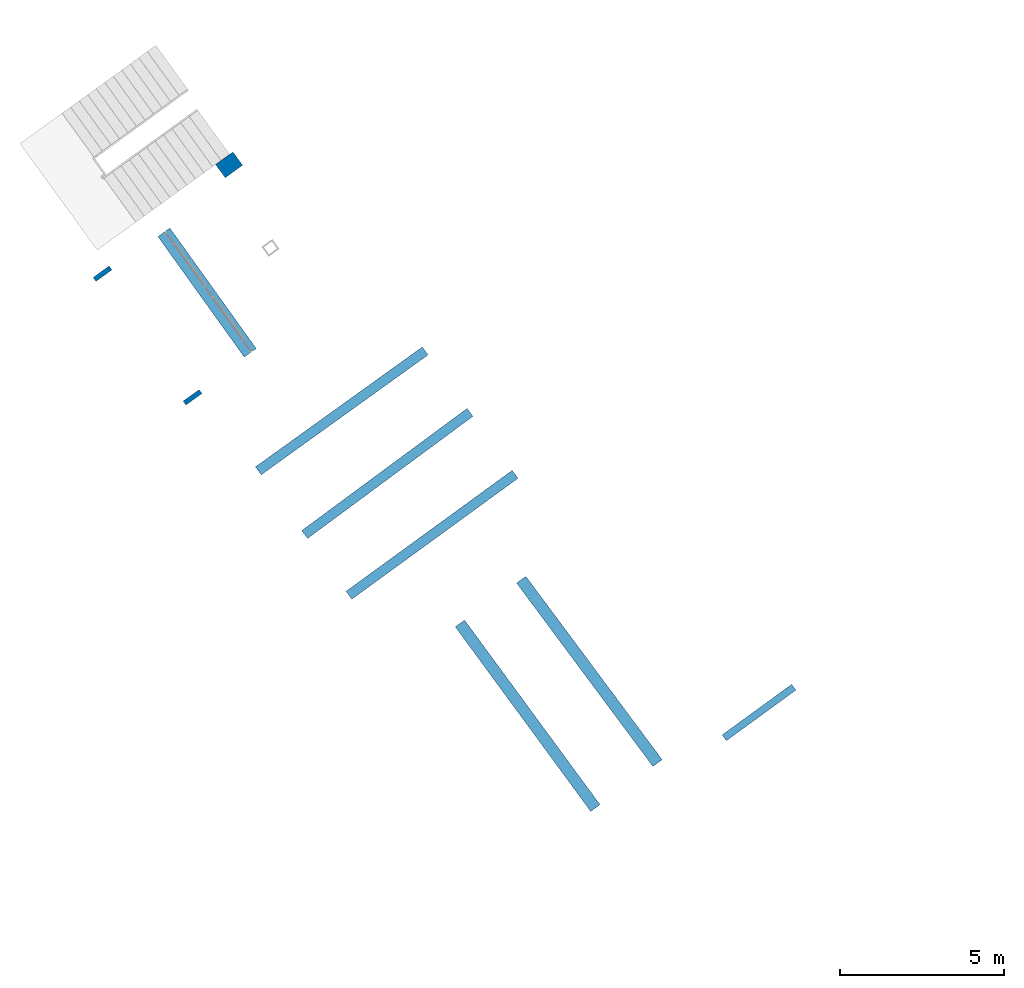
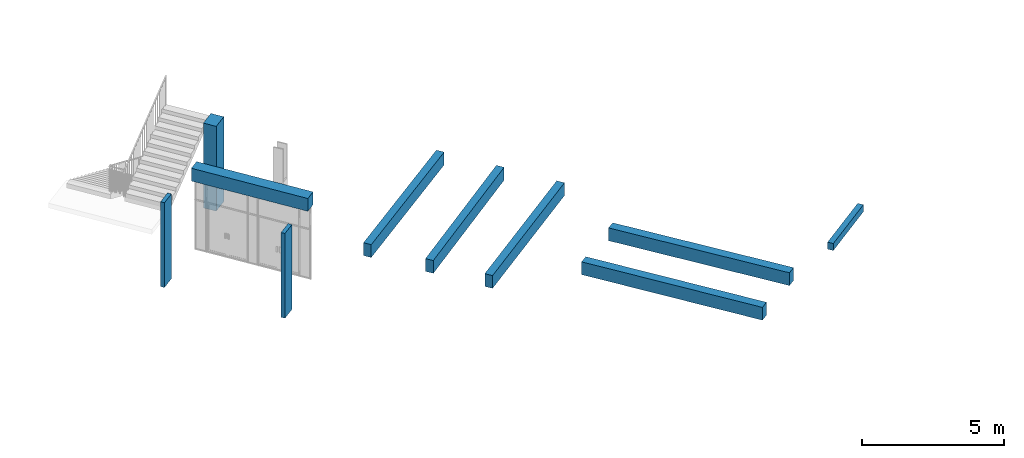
# One storey, part 13 of 24: 10 walls.
"""IFC2X3 building model written with IfcOpenShell, lengths in millimetres."""

import ifcopenshell
import ifcopenshell.guid

model = None  # the IFC model being written
_history = None  # IfcOwnerHistory: only IFC2X3 demands one
_inside = {}  # id of a spatial element -> (the spatial element, [elements in it])
_under = {}  # id of a project, library or spatial element -> (it, [spatial elements below it])
_declared = {}  # id of a project -> (the project, [libraries it declares])
_typed = {}  # id of a type object -> (the type object, [elements of that type])
_made_of = {}  # id of a material, layer set ... -> (it, [elements and type objects made of it])


def new_model(schema):
    """Start an empty IFC model of exactly this schema.

    Asked for "IFC4X3", IfcOpenShell would pick the latest addendum, in which some entities
    have other attributes; the version numbers below select the first issue.
    IFC2X3 requires an IfcOwnerHistory on every rooted entity: one is made here for all.
    """
    global model, _history
    if schema == "IFC4X3":
        model = ifcopenshell.file(schema_version=(4, 3, 0, 0))
    else:
        model = ifcopenshell.file(schema=schema)
    _inside.clear()
    _under.clear()
    _declared.clear()
    _typed.clear()
    _made_of.clear()
    _history = None
    if model.schema == "IFC2X3":
        org = make("IfcOrganization", Name="unknown")
        user = make(
            "IfcPersonAndOrganization",
            ThePerson=make("IfcPerson", FamilyName="unknown"),
            TheOrganization=org,
        )
        app = make(
            "IfcApplication",
            ApplicationDeveloper=org,
            Version="unknown",
            ApplicationFullName="unknown",
            ApplicationIdentifier="unknown",
        )
        _history = make(
            "IfcOwnerHistory",
            OwningUser=user,
            OwningApplication=app,
            ChangeAction="ADDED",
            CreationDate=0,
        )
    return model


def make(cls, **values):
    """One entity of the class cls with the attributes given. An attribute that is None is left unset."""
    return model.create_entity(
        cls, **{name: value for name, value in values.items() if value is not None}
    )


def entity(cls, *values):
    """Any entity or typed value of the class cls, its attributes in the order of the schema. None: left unset."""
    e = model.create_entity(cls)
    for i, value in enumerate(values):
        if value is not None:
            e[i] = value
    return e


def rooted(cls, **values):
    """An entity with a GlobalId (a new one), such as an element, a storey or a relation."""
    return make(cls, GlobalId=ifcopenshell.guid.new(), OwnerHistory=_history, **values)


def si_unit(unit_type, name, prefix=None):
    """IfcSIUnit, for example si_unit("LENGTHUNIT", "METRE", prefix="MILLI")."""
    return make("IfcSIUnit", UnitType=unit_type, Prefix=prefix, Name=name)


def converted_unit(unit_type, name, factor, base, dimensions=None, offset=None):
    """IfcConversionBasedUnit, such as the inch: factor (a typed value) times the base unit."""
    return make(
        "IfcConversionBasedUnit"
        if offset is None
        else "IfcConversionBasedUnitWithOffset",
        ConversionOffset=offset,
        Dimensions=None
        if dimensions is None
        else entity("IfcDimensionalExponents", *dimensions),
        UnitType=unit_type,
        Name=name,
        ConversionFactor=make(
            "IfcMeasureWithUnit", ValueComponent=factor, UnitComponent=base
        ),
    )


def derived_unit(unit_type, elements):
    """IfcDerivedUnit: a product of units, each with its exponent."""
    return make(
        "IfcDerivedUnit",
        Elements=[
            make("IfcDerivedUnitElement", Unit=unit, Exponent=power)
            for unit, power in elements
        ],
        UnitType=unit_type,
    )


def assignment(units):
    """IfcUnitAssignment: the units of a project."""
    return None if units is None else make("IfcUnitAssignment", Units=units)


def point(xyz):
    """IfcCartesianPoint."""
    return None if xyz is None else make("IfcCartesianPoint", Coordinates=xyz)


def direction(xyz):
    """IfcDirection."""
    return None if xyz is None else make("IfcDirection", DirectionRatios=xyz)


def frame(location, z_axis=None, x_axis=None):
    """IfcAxis2Placement3D, a coordinate frame: its origin and axes. An axis left out is left unset."""
    return make(
        "IfcAxis2Placement3D",
        Location=point(location),
        Axis=direction(z_axis),
        RefDirection=direction(x_axis),
    )


def frame_2d(location, x_axis=None):
    """IfcAxis2Placement2D, a coordinate frame in the plane: its origin and x axis."""
    return make(
        "IfcAxis2Placement2D", Location=point(location), RefDirection=direction(x_axis)
    )


def origin():
    """The frame at (0, 0, 0) with its axes left unset."""
    return frame((0.0, 0.0, 0.0))


def place(relative_to, where):
    """IfcLocalPlacement: puts the frame where relative to a parent placement (None: the world)."""
    return make(
        "IfcLocalPlacement", PlacementRelTo=relative_to, RelativePlacement=where
    )


def context(
    kind, dimensions, precision=None, world=None, true_north=None, identifier=None
):
    """IfcGeometricRepresentationContext, for example the 3D "Model" context."""
    return make(
        "IfcGeometricRepresentationContext",
        ContextIdentifier=identifier,
        ContextType=kind,
        CoordinateSpaceDimension=dimensions,
        Precision=precision,
        WorldCoordinateSystem=world,
        TrueNorth=true_north,
    )


def subcontext(parent, identifier, kind, view, scale=None):
    """IfcGeometricRepresentationSubContext, for example "Body" below "Model"."""
    return make(
        "IfcGeometricRepresentationSubContext",
        ContextIdentifier=identifier,
        ContextType=kind,
        ParentContext=parent,
        TargetScale=scale,
        TargetView=view,
    )


def project(units=None, contexts=None):
    """IfcProject with its units and contexts."""
    return rooted(
        "IfcProject",
        Name="project",
        RepresentationContexts=contexts,
        UnitsInContext=assignment(units),
    )


def spatial(cls, under=None, at=None, **own):
    """A site, building, storey or space (cls), placed at a placement, below another one or the project."""
    s = rooted(cls, ObjectPlacement=at, **own)
    if under is not None:
        _under.setdefault(under.id(), (under, []))[1].append(s)
    return s


def polyline(points):
    """IfcPolyline through the points."""
    return make("IfcPolyline", Points=[point(p) for p in points])


def profile(cls, at=None, kind="AREA", **sizes):
    """A parametric profile (cls). Its sizes go by their IFC names, for example OverallWidth=200.0."""
    return make(cls, ProfileType=kind, Position=at, **sizes)


def rectangle(**sizes):
    """IfcRectangleProfileDef."""
    return profile("IfcRectangleProfileDef", **sizes)


def outline(outer, holes=None, kind="AREA"):
    """IfcArbitraryClosedProfileDef: a profile drawn as a closed curve; with holes, ...WithVoids."""
    if holes is None:
        return make("IfcArbitraryClosedProfileDef", ProfileType=kind, OuterCurve=outer)
    return make(
        "IfcArbitraryProfileDefWithVoids",
        ProfileType=kind,
        OuterCurve=outer,
        InnerCurves=holes,
    )


def extrude(swept, where, along, depth):
    """IfcExtrudedAreaSolid: the profile swept, set in the frame where, extruded along a direction by depth."""
    return make(
        "IfcExtrudedAreaSolid",
        SweptArea=swept,
        Position=where,
        ExtrudedDirection=direction(along),
        Depth=depth,
    )


def shape(context_of_items, identifier, shape_type, items):
    """IfcShapeRepresentation: the items that make up one representation, for example the "Body"."""
    return make(
        "IfcShapeRepresentation",
        ContextOfItems=context_of_items,
        RepresentationIdentifier=identifier,
        RepresentationType=shape_type,
        Items=items,
    )


def material(Name=None, Category=None):
    """IfcMaterial."""
    return make("IfcMaterial", Name=Name, Category=Category)


def layer(
    of_material, thickness, ventilated=None, Name=None, Category=None, Priority=None
):
    """IfcMaterialLayer: one layer of a wall or slab, of a material (None: an air gap)."""
    return make(
        "IfcMaterialLayer",
        Material=of_material,
        LayerThickness=thickness,
        IsVentilated=ventilated,
        Name=Name,
        Category=Category,
        Priority=Priority,
    )


def layer_set(layers, Name=None):
    """IfcMaterialLayerSet."""
    return make("IfcMaterialLayerSet", MaterialLayers=layers, LayerSetName=Name)


def layer_usage(for_layer_set, set_direction, sense, offset, extent=None):
    """IfcMaterialLayerSetUsage: how a layer set lies in its element."""
    return make(
        "IfcMaterialLayerSetUsage",
        ForLayerSet=for_layer_set,
        LayerSetDirection=set_direction,
        DirectionSense=sense,
        OffsetFromReferenceLine=offset,
        ReferenceExtent=extent,
    )


def made_of(thing, what):
    """Note that an element or type object is made of a material, layer set ...; save() writes the relation."""
    if what is not None:
        _made_of.setdefault(what.id(), (what, []))[1].append(thing)
    return thing


def type_object(cls, material=None, **own):
    """A type object (cls), such as IfcWallType, which elements share."""
    return made_of(rooted(cls, **own), material)


def element(
    cls,
    number,
    at=None,
    inside=None,
    cuts=None,
    type_object=None,
    material=None,
    context=None,
    identifier="Body",
    shape_type=None,
    held_by="IfcProductDefinitionShape",
    body=None,
    shapes=None,
    **own,
):
    """One element of the class cls, such as IfcWall. Its Tag is "e" and its number.

    at: its placement. inside: the storey or other place that contains it. cuts: it is an
    opening in that element (IfcRelVoidsElement). A single representation is given by context,
    identifier, shape_type and body (its items); several are given by shapes. held_by: the class
    of the entity that holds the representations. save() writes the other relations.
    """
    e = rooted(cls, Tag="e%d" % number, ObjectPlacement=at, **own)
    if body is not None:
        shapes = [shape(context, identifier, shape_type, body)]
    if shapes is not None:
        e.Representation = make(held_by, Representations=shapes)
    if inside is not None:
        _inside.setdefault(inside.id(), (inside, []))[1].append(e)
    if cuts is not None:
        rooted(
            "IfcRelVoidsElement", RelatingBuildingElement=cuts, RelatedOpeningElement=e
        )
    if type_object is not None:
        _typed.setdefault(type_object.id(), (type_object, []))[1].append(e)
    return made_of(e, material)


def aggregate(whole, parts):
    """IfcRelAggregates: a whole, such as a stair, and the parts it consists of."""
    return rooted("IfcRelAggregates", RelatingObject=whole, RelatedObjects=parts)


def save(model, path):
    """Write the relations noted so far, then the file.

    IfcRelAggregates (storeys below a building ...), IfcRelContainedInSpatialStructure (elements
    in a storey), IfcRelDefinesByType, IfcRelAssociatesMaterial and IfcRelDeclares: one each for
    every whole, place, type object, material and project.
    """
    for whole, parts in _under.values():
        aggregate(whole, parts)
    for where, things in _inside.values():
        rooted(
            "IfcRelContainedInSpatialStructure",
            RelatedElements=things,
            RelatingStructure=where,
        )
    for kind, things in _typed.values():
        rooted("IfcRelDefinesByType", RelatedObjects=things, RelatingType=kind)
    for what, things in _made_of.values():
        rooted("IfcRelAssociatesMaterial", RelatedObjects=things, RelatingMaterial=what)
    for by, libraries in _declared.values():
        rooted("IfcRelDeclares", RelatingContext=by, RelatedDefinitions=libraries)
    model.write(path)


model = new_model("IFC2X3")

# Units and contexts
model_context = context("Model", 3, precision=0.01, world=origin(), true_north=direction((6.123031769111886e-17, 1.0)))
body_context = subcontext(model_context, "Body", "Model", "MODEL_VIEW")
ifc_project = project(units=[si_unit("LENGTHUNIT", "METRE", prefix="MILLI"), si_unit("AREAUNIT", "SQUARE_METRE"), si_unit("VOLUMEUNIT", "CUBIC_METRE"), converted_unit("PLANEANGLEUNIT", "DEGREE", entity("IfcRatioMeasure", 0.017453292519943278), si_unit("PLANEANGLEUNIT", "RADIAN"), dimensions=[0, 0, 0, 0, 0, 0, 0]), si_unit("MASSUNIT", "GRAM", prefix="KILO"), derived_unit("MASSDENSITYUNIT", [(si_unit("MASSUNIT", "GRAM", prefix="KILO"), 1), (si_unit("LENGTHUNIT", "METRE"), -3)]), derived_unit("MOMENTOFINERTIAUNIT", [(si_unit("LENGTHUNIT", "METRE"), 4)]), si_unit("TIMEUNIT", "SECOND"), si_unit("FREQUENCYUNIT", "HERTZ"), si_unit("THERMODYNAMICTEMPERATUREUNIT", "DEGREE_CELSIUS"), derived_unit("THERMALTRANSMITTANCEUNIT", [(si_unit("MASSUNIT", "GRAM", prefix="KILO"), 1), (si_unit("THERMODYNAMICTEMPERATUREUNIT", "KELVIN"), -1), (si_unit("TIMEUNIT", "SECOND"), -3)]), derived_unit("THERMALCONDUCTANCEUNIT", [(si_unit("MASSUNIT", "GRAM", prefix="KILO"), 1), (si_unit("LENGTHUNIT", "METRE"), 1), (si_unit("THERMODYNAMICTEMPERATUREUNIT", "KELVIN"), -1), (si_unit("TIMEUNIT", "SECOND"), -3)]), derived_unit("VOLUMETRICFLOWRATEUNIT", [(si_unit("LENGTHUNIT", "METRE"), 3), (si_unit("TIMEUNIT", "SECOND"), -1)]), derived_unit("MASSFLOWRATEUNIT", [(si_unit("MASSUNIT", "GRAM", prefix="KILO"), 1), (si_unit("TIMEUNIT", "SECOND"), -1)]), derived_unit("ROTATIONALFREQUENCYUNIT", [(si_unit("TIMEUNIT", "SECOND"), -1)]), si_unit("ELECTRICCURRENTUNIT", "AMPERE"), si_unit("ELECTRICVOLTAGEUNIT", "VOLT"), si_unit("POWERUNIT", "WATT"), converted_unit("FORCEUNIT", "KIP", entity("IfcRatioMeasure", 2.088543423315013e-05), si_unit("FORCEUNIT", "NEWTON"), dimensions=[1, 1, -2, 0, 0, 0, 0]), si_unit("ILLUMINANCEUNIT", "LUX"), si_unit("LUMINOUSFLUXUNIT", "LUMEN"), si_unit("LUMINOUSINTENSITYUNIT", "CANDELA"), derived_unit("USERDEFINED", [(si_unit("MASSUNIT", "GRAM", prefix="KILO"), -1), (si_unit("LENGTHUNIT", "METRE"), -2), (si_unit("TIMEUNIT", "SECOND"), 3), (si_unit("LUMINOUSFLUXUNIT", "LUMEN"), 1)]), derived_unit("USERDEFINED", [(si_unit("MASSUNIT", "GRAM", prefix="KILO"), 1), (si_unit("LENGTHUNIT", "METRE"), 3), (si_unit("TIMEUNIT", "SECOND"), -3), (si_unit("ELECTRICCURRENTUNIT", "AMPERE"), -2)]), derived_unit("USERDEFINED", [(si_unit("LENGTHUNIT", "METRE"), 2), (si_unit("TIMEUNIT", "SECOND"), -2)]), derived_unit("SOUNDPOWERUNIT", [(si_unit("MASSUNIT", "GRAM", prefix="KILO"), 1), (si_unit("LENGTHUNIT", "METRE"), 2), (si_unit("TIMEUNIT", "SECOND"), -3)]), derived_unit("SOUNDPRESSUREUNIT", [(si_unit("MASSUNIT", "GRAM", prefix="KILO"), 1), (si_unit("LENGTHUNIT", "METRE"), -1), (si_unit("TIMEUNIT", "SECOND"), -2)]), derived_unit("LINEARVELOCITYUNIT", [(si_unit("LENGTHUNIT", "METRE"), 1), (si_unit("TIMEUNIT", "SECOND"), -1)]), si_unit("PRESSUREUNIT", "PASCAL"), derived_unit("USERDEFINED", [(si_unit("LENGTHUNIT", "METRE"), -2), (si_unit("MASSUNIT", "GRAM", prefix="KILO"), 1), (si_unit("TIMEUNIT", "SECOND"), -2)]), derived_unit("LINEARFORCEUNIT", [(si_unit("MASSUNIT", "GRAM", prefix="KILO"), 1), (si_unit("LENGTHUNIT", "METRE"), 1), (si_unit("TIMEUNIT", "SECOND"), -2), (si_unit("LENGTHUNIT", "METRE"), -1)]), derived_unit("PLANARFORCEUNIT", [(si_unit("MASSUNIT", "GRAM", prefix="KILO"), 1), (si_unit("LENGTHUNIT", "METRE"), 1), (si_unit("TIMEUNIT", "SECOND"), -2), (si_unit("LENGTHUNIT", "METRE"), -2)]), derived_unit("SPECIFICHEATCAPACITYUNIT", [(si_unit("LENGTHUNIT", "METRE"), 2), (si_unit("TIMEUNIT", "SECOND"), -2), (si_unit("THERMODYNAMICTEMPERATUREUNIT", "KELVIN"), -1)]), derived_unit("VAPORPERMEABILITYUNIT", [(si_unit("TIMEUNIT", "SECOND"), 1), (si_unit("LENGTHUNIT", "METRE"), -1)]), derived_unit("DYNAMICVISCOSITYUNIT", [(si_unit("MASSUNIT", "GRAM", prefix="KILO"), 1), (si_unit("LENGTHUNIT", "METRE"), -1), (si_unit("TIMEUNIT", "SECOND"), -1)]), derived_unit("THERMALEXPANSIONCOEFFICIENTUNIT", [(si_unit("THERMODYNAMICTEMPERATUREUNIT", "KELVIN"), -1)])], contexts=[model_context])

# Site, building, storey
site_placement = place(None, frame((0.0, 0.0, 0.0), z_axis=(0.0, 0.0, 1.0), x_axis=(0.8191520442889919, 0.5735764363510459, 0.0)))
site = spatial("IfcSite", under=ifc_project, at=site_placement, Name="Default", CompositionType="ELEMENT")
building_placement = place(site_placement, origin())
building = spatial("IfcBuilding", under=site, at=building_placement, CompositionType="ELEMENT")
storey_placement = place(building_placement, frame((0.0, 0.0, -1150.0)))
storey = spatial("IfcBuildingStorey", under=building, at=storey_placement, Name="6.EG KH -1.15", CompositionType="ELEMENT", Elevation=-1150.0000000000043)

# Walls
ifc_material = material(Name="Analytical Wall Surface_CJC")
ifc_layer_1 = layer(ifc_material, 450.00000000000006)
ifc_layer_set_1 = layer_set([ifc_layer_1], Name="Basic Wall:Wand_Aussen_45")
ifc_layer_usage_1 = layer_usage(ifc_layer_set_1, "AXIS2", "POSITIVE", -225.00000000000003)
wall_type_1 = type_object("IfcWallType", Name="Basic Wall:Wand_Aussen_45", PredefinedType="STANDARD", material=ifc_layer_set_1)
wall_1_placement = place(storey_placement, frame((-189197.87762852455, 192903.10284941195, 3100.0), z_axis=(0.0, 0.0, 1.0), x_axis=(0.010719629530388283, -0.9999425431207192, 0.0)))
element("IfcWallStandardCase", 1, at=wall_1_placement, inside=storey, type_object=wall_type_1, material=ifc_layer_usage_1, Name="Basic Wall:Wand_Aussen_45", ObjectType="Basic Wall:Wand_Aussen_45", context=body_context, shape_type="SweptSolid", body=[
    extrude(rectangle(XDim=4510.278660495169, YDim=450.0000000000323, at=frame_2d((2255.1393302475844, 2.1316282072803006e-13), x_axis=(-1.0, 0.0))), origin(), (0.0, 0.0, 1.0), 550.0),
])
ifc_layer_2 = layer(ifc_material, 300.0)
ifc_layer_set_2 = layer_set([ifc_layer_2], Name="Basic Wall:Wand_Innen_30")
ifc_layer_usage_2 = layer_usage(ifc_layer_set_2, "AXIS2", "POSITIVE", -150.0)
wall_type_2 = type_object("IfcWallType", Name="Basic Wall:Wand_Innen_30", PredefinedType="STANDARD", material=ifc_layer_set_2)
wall_2_placement = place(storey_placement, frame((-190920.16822078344, 180635.3496789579, 3100.0), z_axis=(0.0, 0.0, 1.0), x_axis=(0.9998352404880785, 0.018151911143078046, 0.0)))
element("IfcWallStandardCase", 2, at=wall_2_placement, inside=storey, type_object=wall_type_2, material=ifc_layer_usage_2, Name="Basic Wall:Wand_Innen_30", ObjectType="Basic Wall:Wand_Innen_30", context=body_context, shape_type="SweptSolid", body=[
    extrude(outline(polyline([(6250.062507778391, -150.0), (6249.948301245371, 150.0), (0.0, 150.0), (0.11639780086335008, -150.0), (6250.062507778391, -150.0)])), origin(), (0.0, 0.0, 1.0), 550.0),
])
wall_3_placement = place(storey_placement, frame((-190963.49674216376, 182919.9172969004, 3100.0), z_axis=(0.0, 0.0, 1.0), x_axis=(0.9996783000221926, 0.025363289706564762, 0.0)))
element("IfcWallStandardCase", 3, at=wall_3_placement, inside=storey, type_object=wall_type_2, material=ifc_layer_usage_2, Name="Basic Wall:Wand_Innen_30", ObjectType="Basic Wall:Wand_Innen_30", context=body_context, shape_type="SweptSolid", body=[
    extrude(outline(polyline([(6250.108229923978, -150.0), (6252.157985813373, 150.0), (2.047564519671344, 150.0), (0.0, -150.0), (6250.108229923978, -150.0)])), origin(), (0.0, 0.0, 1.0), 550.0),
])
wall_4_placement = place(storey_placement, frame((-191007.83452930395, 185314.5170641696, 3100.0), z_axis=(0.0, 0.0, 1.0), x_axis=(0.9999261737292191, 0.01215101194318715, 0.0)))
element("IfcWallStandardCase", 4, at=wall_4_placement, inside=storey, type_object=wall_type_2, material=ifc_layer_usage_2, Name="Basic Wall:Wand_Innen_30", ObjectType="Basic Wall:Wand_Innen_30", context=body_context, shape_type="SweptSolid", body=[
    extrude(outline(polyline([(6252.0240378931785, -150.0), (6250.109326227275, 150.0), (0.0, 150.0), (1.9169030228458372, -150.0), (6252.0240378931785, -150.0)])), origin(), (0.0, 0.0, 1.0), 550.0),
])
ifc_layer_3 = layer(ifc_material, 350.0)
ifc_layer_set_3 = layer_set([ifc_layer_3], Name="Basic Wall:Wand_Innen_35")
ifc_layer_usage_3 = layer_usage(ifc_layer_set_3, "AXIS2", "NEGATIVE", 175.0)
wall_type_3 = type_object("IfcWallType", Name="Basic Wall:Wand_Innen_35", PredefinedType="STANDARD", material=ifc_layer_set_3)
wall_5_placement = place(storey_placement, frame((-188492.0137209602, 171035.713467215, 3100.0), z_axis=(0.0, 0.0, 1.0), x_axis=(-0.022281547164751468, 0.9997517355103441, 0.0)))
element("IfcWallStandardCase", 5, at=wall_5_placement, inside=storey, type_object=wall_type_3, material=ifc_layer_usage_3, Name="Basic Wall:Wand_Innen_35", ObjectType="Basic Wall:Wand_Innen_35", context=body_context, shape_type="SweptSolid", body=[
    extrude(outline(polyline([(6961.17962525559, -175.0), (6965.707018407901, 175.0), (2.4956462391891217, 175.0), (0.0, -175.0), (6961.17962525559, -175.0)])), origin(), (0.0, 0.0, 1.0), 550.0),
])
wall_6_placement = place(storey_placement, frame((-186159.87860299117, 171070.0053198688, 3100.0), z_axis=(0.0, 0.0, 1.0), x_axis=(-0.028278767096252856, 0.9996000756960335, 0.0)))
element("IfcWallStandardCase", 6, at=wall_6_placement, inside=storey, type_object=wall_type_3, material=ifc_layer_usage_3, Name="Basic Wall:Wand_Innen_35", ObjectType="Basic Wall:Wand_Innen_35", context=body_context, shape_type="SweptSolid", body=[
    extrude(outline(polyline([(6948.304773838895, -175.0), (6954.932407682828, 175.0), (4.595569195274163, 175.0), (0.0, -175.0), (6948.304773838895, -175.0)])), origin(), (0.0, 0.0, 1.0), 550.0),
])
ifc_layer_4 = layer(ifc_material, 500.00000000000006)
ifc_layer_set_4 = layer_set([ifc_layer_4], Name="Basic Wall:Wand_Innen_50")
ifc_layer_usage_4 = layer_usage(ifc_layer_set_4, "AXIS2", "NEGATIVE", 250.00000000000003)
wall_type_4 = type_object("IfcWallType", Name="Basic Wall:Wand_Innen_50", PredefinedType="STANDARD", material=ifc_layer_set_4)
wall_7_placement = place(storey_placement, frame((-186071.33579661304, 193450.41591736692, 0.0), z_axis=(0.0, 0.0, 1.0), x_axis=(-0.9998806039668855, -0.015452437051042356, 0.0)))
element("IfcWallStandardCase", 7, at=wall_7_placement, inside=storey, type_object=wall_type_4, material=ifc_layer_usage_4, Name="Basic Wall:Wand_Innen_50", ObjectType="Basic Wall:Wand_Innen_50", context=body_context, shape_type="SweptSolid", body=[
    extrude(outline(polyline([(655.3185760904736, -250.0), (652.7095944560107, 200.0), (652.4197076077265, 250.0), (0.0, 250.0), (0.0, -250.0), (655.3185760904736, -250.0)])), origin(), (0.0, 0.0, 1.0), 3650.0000000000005),
])
ifc_layer_5 = layer(ifc_material, 150.0)
ifc_layer_set_5 = layer_set([ifc_layer_5], Name="Basic Wall:Wand_Aussen_15")
ifc_layer_usage_5 = layer_usage(ifc_layer_set_5, "AXIS2", "NEGATIVE", 75.0)
wall_type_5 = type_object("IfcWallType", Name="Basic Wall:Wand_Aussen_15", PredefinedType="STANDARD", material=ifc_layer_set_5)
wall_8_placement = place(storey_placement, frame((-191662.65728154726, 188288.8726920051, 0.0), z_axis=(0.0, 0.0, 1.0), x_axis=(0.9999333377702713, 0.011546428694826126, 0.0)))
element("IfcWallStandardCase", 8, at=wall_8_placement, inside=storey, type_object=wall_type_5, material=ifc_layer_usage_5, Name="Basic Wall:Wand_Aussen_15", ObjectType="Basic Wall:Wand_Aussen_15", context=body_context, shape_type="SweptSolid", body=[
    extrude(outline(polyline([(601.0638254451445, -75.0), (600.014676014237, 75.0), (0.0, 75.0), (0.0, -75.0), (151.05281843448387, -75.0), (601.0638254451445, -75.0)])), origin(), (0.0, 0.0, 1.0), 3650.0000000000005),
])
ifc_layer_usage_6 = layer_usage(ifc_layer_set_5, "AXIS2", "POSITIVE", -75.0)
wall_9_placement = place(storey_placement, frame((-191748.10311633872, 192937.63480367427, 0.0), z_axis=(0.0, 0.0, 1.0), x_axis=(0.9998806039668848, 0.015452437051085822, 0.0)))
element("IfcWallStandardCase", 9, at=wall_9_placement, inside=storey, type_object=wall_type_5, material=ifc_layer_usage_6, Name="Basic Wall:Wand_Aussen_15", ObjectType="Basic Wall:Wand_Aussen_15", context=body_context, shape_type="SweptSolid", body=[
    extrude(outline(polyline([(600.0028604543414, -75.0), (599.5396816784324, 75.0), (149.53753633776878, 75.0), (0.0, 75.0), (0.0, -75.0), (600.0028604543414, -75.0)])), origin(), (0.0, 0.0, 1.0), 3650.0000000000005),
])
ifc_layer_6 = layer(ifc_material, 220.0)
ifc_layer_set_6 = layer_set([ifc_layer_6], Name="Basic Wall:Wand_Innen_22")
ifc_layer_usage_7 = layer_usage(ifc_layer_set_6, "AXIS2", "POSITIVE", -110.0)
wall_type_6 = type_object("IfcWallType", Name="Basic Wall:Wand_Innen_22", PredefinedType="STANDARD", material=ifc_layer_set_6)
wall_10_placement = place(storey_placement, frame((-184058.56633988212, 170538.14375546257, 3350.0), z_axis=(0.0, 0.0, 1.0), x_axis=(0.999835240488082, 0.018151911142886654, 0.0)))
element("IfcWallStandardCase", 10, at=wall_10_placement, inside=storey, type_object=wall_type_6, material=ifc_layer_usage_7, Name="Basic Wall:Wand_Innen_22", ObjectType="Basic Wall:Wand_Innen_22", context=body_context, shape_type="SweptSolid", body=[
    extrude(outline(polyline([(2616.8634045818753, -110.0), (2615.7358927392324, 110.0), (0.6406032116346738, 110.0), (0.0, -110.0), (2616.8634045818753, -110.0)])), origin(), (0.0, 0.0, 1.0), 300.0),
])

save(model, "model.ifc")
